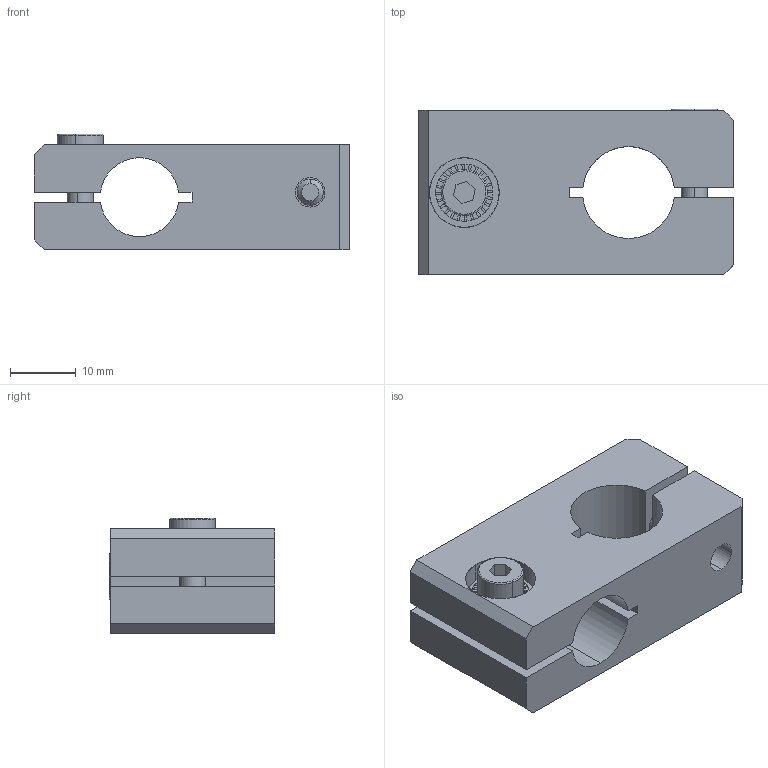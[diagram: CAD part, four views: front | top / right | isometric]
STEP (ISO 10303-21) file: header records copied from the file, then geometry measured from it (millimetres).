
FILE_DESCRIPTION (( 'STEP AP214' ), '1' );
FILE_NAME ('SMBT-1214.STEP', '2019-11-06T05:29:47', ( '微软用户' ), ( '微软中国' ), 'SwSTEP 2.0', 'SolidWorks 2016', '' );
FILE_SCHEMA (( 'AUTOMOTIVE_DESIGN' ));
Length unit declared in the file: millimetre
Products named in the file (1): SMBT-1214
Bounding box: 48 x 25.2 x 17.6 mm (x, y, z)
Volume: 12728.2 mm3; surface area: 7940.3 mm2
Topology: 5 solids, 5 shells, 473 faces, 1365 edges, 902 vertices
Faces by surface type: plane 430, cylinder 33, cone 6, bspline 4
Entity records: 21120 total; most frequent: CARTESIAN_POINT 2989, DIRECTION 2739, ORIENTED_EDGE 2730, EDGE_CURVE 1365, VECTOR 915, LINE 915, AXIS2_PLACEMENT_3D 912, VERTEX_POINT 902
